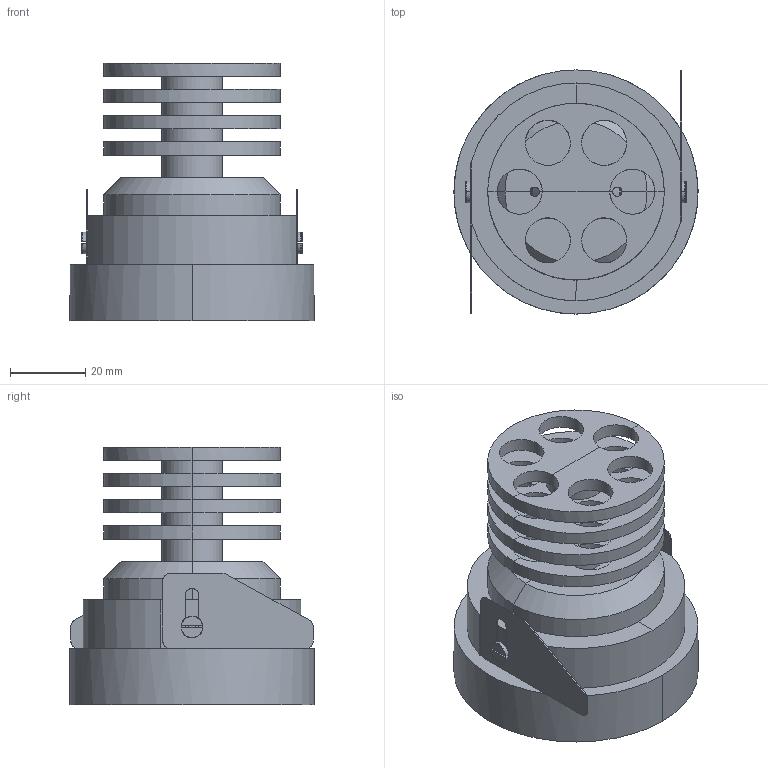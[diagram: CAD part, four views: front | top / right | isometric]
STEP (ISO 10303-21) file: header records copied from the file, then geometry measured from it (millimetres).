
FILE_DESCRIPTION(/* description */ (''),/* implementation_level */ '2;1');
FILE_NAME(/* name */ 'Nest 10-724',/* time_stamp */ '2025-06-18T18:15:29+02:00',/* author */ (''),/* organization */ (''),/* preprocessor_version */ 'ST-DEVELOPER v15',/* originating_system */ '',/* authorisation */ '');
FILE_SCHEMA (('CONFIG_CONTROL_DESIGN'));
Length unit declared in the file: millimetre
Products named in the file (1): Document
Bounding box: 65 x 65 x 68.66 mm (x, y, z)
Volume: 71910.4 mm3; surface area: 41704.7 mm2
Topology: 5 solids, 8 shells, 607 faces, 1574 edges, 917 vertices
Faces by surface type: bspline 607
Entity records: 57069 total; most frequent: CARTESIAN_POINT 37958, B_SPLINE_CURVE_WITH_KNOTS 3780, ORIENTED_EDGE 3020, PCURVE 3020, DEFINITIONAL_REPRESENTATION 3020, SURFACE_CURVE 1531, EDGE_CURVE 1531, VERTEX_POINT 917
